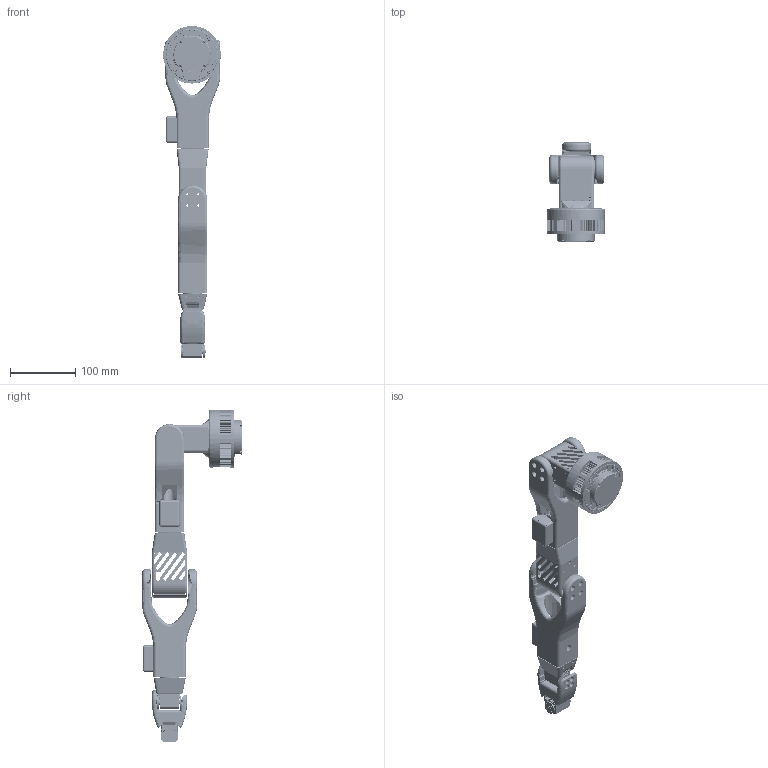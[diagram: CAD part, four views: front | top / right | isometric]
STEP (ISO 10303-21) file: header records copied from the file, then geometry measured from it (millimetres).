
FILE_DESCRIPTION(/* description */ (''),/* implementation_level */ '2;1');
FILE_NAME(/* name */ 'GEM arm.step',/* time_stamp */ '2026-03-26T18:45:33Z',/* author */ (''),/* organization */ (''),/* preprocessor_version */ 'ST-DEVELOPER v20.1',/* originating_system */ 'Autodesk Translation Framework v14.24.0.0',/* authorisation */ '');
FILE_SCHEMA (('AUTOMOTIVE_DESIGN { 1 0 10303 214 3 1 1 }'));
Length unit declared in the file: millimetre
Products named in the file (57): GEM - rot90 wrist; motor1_bearing_mount; bearing_case; link1; link1_body; motor1_connector; motor2_case; ST-3095-20231212_ASM; FT995M-20231212_ASM_ASM; FT1001B_ASM_220_ASM_ASM; WJ-WK00-0298-BOTTOMCAS-DS_35; OUTPUTGAER-15T_ASM_14_ASM_ASM; OUTPUTGEAR_31; WJ-WK00-0296-S-TOPCABINET_55; WJ-WK00-0297-MIDDLECASE-TTL_32; M25-32SCREW_9; 5264-3P_ASM_2_ASM_ASM; 3PIN-1_2; A5264-3P-20210107_3; shaft-horn; idler; motor2_case_body; spacing; motor2_connector_fillet; 6010-8安装尺寸图-驱动盖可拆; V5驱动盖; 6010-8_简化_1; link2; ST-3235M-20211119-A_ASM; link3; case_body; link1_cap; Connector; link4; link2_1; ST-3235M-20211119-A_ASM_1; FK-AP-019-20210309; WJ-DP00-0002-FK-AP-020_1; ST-3235M-20211119_ASM_ASM; SCS215_ASM_71_ASM_ASM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
Assembly tree (71 placements, depth 9):
  GEM - rot90 wrist
    motor1_bearing_mount
      bearing_case
    link1
      link1_cap
      link1_body
        motor1_connector
        motor2_case
          ST-3095-20231212_ASM
            FT995M-20231212_ASM_ASM
              FT1001B_ASM_220_ASM_ASM
                WJ-WK00-0298-BOTTOMCAS-DS_35
                OUTPUTGAER-15T_ASM_14_ASM_ASM
                  OUTPUTGEAR_31
                WJ-WK00-0296-S-TOPCABINET_55
                M25-32SCREW_9  x4
                WJ-WK00-0297-MIDDLECASE-TTL_32
                5264-3P_ASM_2_ASM_ASM  x2
                  3PIN-1_2
                  A5264-3P-20210107_3
              shaft-horn
              idler
          motor2_case_body
            case_body
            spacing
          motor2_connector_fillet
    6010-8安装尺寸图-驱动盖可拆
      V5驱动盖
        6010-8_简化_1
    link2
      ST-3235M-20211119-A_ASM
        WJ-DP00-0002-FK-AP-020_1
        ST-3235M-20211119_ASM_ASM
          SCS215_ASM_71_ASM_ASM
            ASM-_____ASM_5_ASM_7_ASM_ASM
              PRT0001
            PRT0002
            PRT0003
            PRT0004  x4
            PRT0005  x2
            PRT0006
            OUTGEAR_ASM_2_ASM_ASM
              PRT0007
      link2_body
      link2_cap
    link3
      case_body
      link1_cap
      Connector
    link4
      link2_1
        ST-3235M-20211119-A_ASM_1
          FK-AP-019-20210309
          WJ-DP00-0002-FK-AP-020_1
          ST-3235M-20211119_ASM_ASM
            SCS215_ASM_71_ASM_ASM
              ASM-_____ASM_5_ASM_7_ASM_ASM
                PRT0001
              PRT0002
              PRT0003
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Bounding box: 88.33 x 152.31 x 509.23 mm (x, y, z)
Volume: 959123.3 mm3; surface area: 384656.3 mm2
Topology: 60 solids, 60 shells, 8721 faces, 23931 edges, 15619 vertices
Faces by surface type: cylinder 3878, plane 2966, bspline 1249, cone 548, torus 66, sphere 14
Full cylindrical faces by diameter (mm): 0.7 x40, 0.8 x6, 1.5 x20, 1.567 x12, 1.6 x232, 1.623 x29, 2 x32, 2.074 x13, 2.075 x40, 2.1 x135, 2.459 x25, 2.5 x447, 2.58 x8, 2.6 x20, 2.7 x4, 3 x18, 3.13 x14, 3.195 x4, 3.2 x1, 3.26 x12, 3.35 x16, 3.5 x14, 3.66 x8, 4 x15, 4.2 x4, 4.39 x3, 4.5 x14, 4.8 x2, 5 x2, 5.195 x1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
Entity records: 336427 total; most frequent: CARTESIAN_POINT 195928, ORIENTED_EDGE 30710, DIRECTION 27028, EDGE_CURVE 15355, VERTEX_POINT 10033, AXIS2_PLACEMENT_3D 9930, LINE 7168, VECTOR 7168
